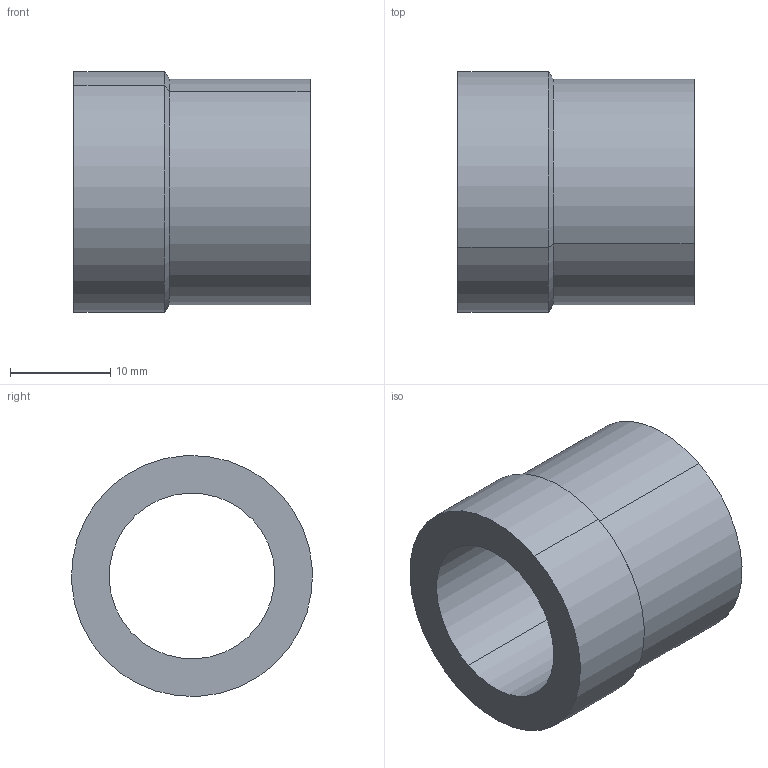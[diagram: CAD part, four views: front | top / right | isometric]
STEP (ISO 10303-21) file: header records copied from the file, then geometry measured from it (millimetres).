
FILE_DESCRIPTION(('Creo Elements/Direct Modeling STEP Export'),'2;1');
FILE_NAME('H07-0015-CL901-01_G22-16A.stp','2012-09-28T13:51:36',(''),(''),'Creo Elements/Direct Modeling STEP processor for AP214 (Solid Model)','Creo Elements/Direct Modeling 18.0B 02-Dec-2011 (C) Parametric Technology GmbH','');
FILE_SCHEMA(('AUTOMOTIVE_DESIGN { 1 0 10303 214 1 1 1 1 }'));
Length unit declared in the file: millimetre
Products named in the file (2): G22-16A
Assembly tree (1 placements, depth 2):
  G22-16A
    G22-16A
Bounding box: 23.5 x 23.98 x 23.98 mm (x, y, z)
Volume: 4825.5 mm3; surface area: 3374.5 mm2
Topology: 1 solids, 1 shells, 10 faces, 20 edges, 12 vertices
Faces by surface type: cylinder 6, plane 2, cone 2
Entity records: 283 total; most frequent: DIRECTION 44, ORIENTED_EDGE 40, CARTESIAN_POINT 38, EDGE_CURVE 20, AXIS2_PLACEMENT_3D 18, VERTEX_POINT 12, EDGE_LOOP 12, FACE_OUTER_BOUND 10
